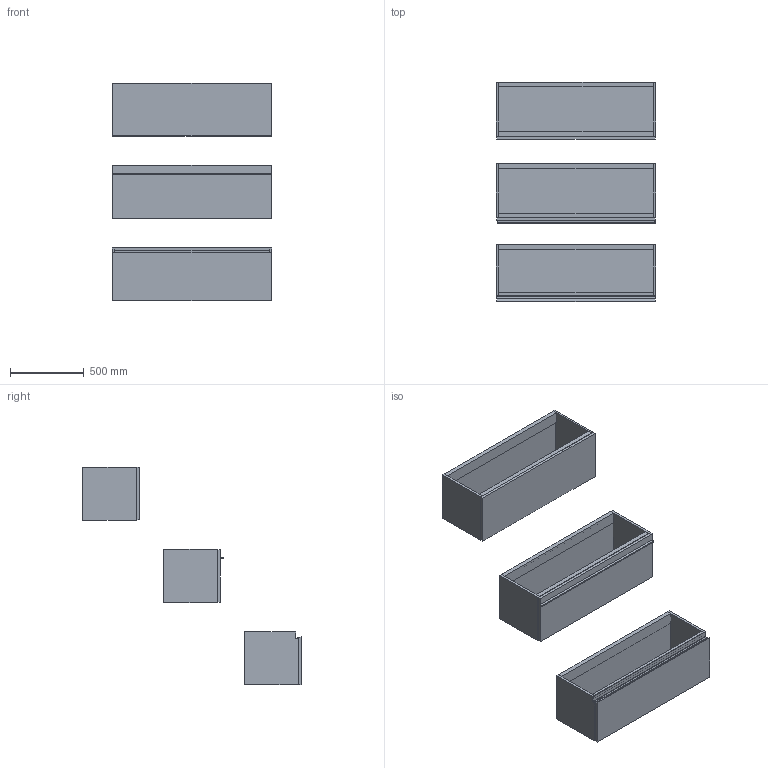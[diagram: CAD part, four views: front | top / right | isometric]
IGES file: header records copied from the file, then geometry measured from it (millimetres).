
Start section: Data from Parasolid IGES Translator 19.0.9, Copyright(c) 2006 Siemens PL M Software. All Rights Reserved.
Global section: file name: noorth-SI-H 36 D 38,8 W 108_8330.igs; native system: By Siemens PLM Incorporated; preprocessor: XPlus GENERIC/IGES 19.0.9; author: Noname; organization: Noname; date: 20200530.132749; units: metre
Bounding box: 1080 x 1485.1 x 1480.01 mm (x, y, z)
Volume: 64735956.8 mm3; surface area: 9809558.3 mm2
Topology: 23 solids, 23 shells, 196 faces, 418 edges, 258 vertices
Faces by surface type: plane 152, extrusion 16, bspline 16, cylinder 12
